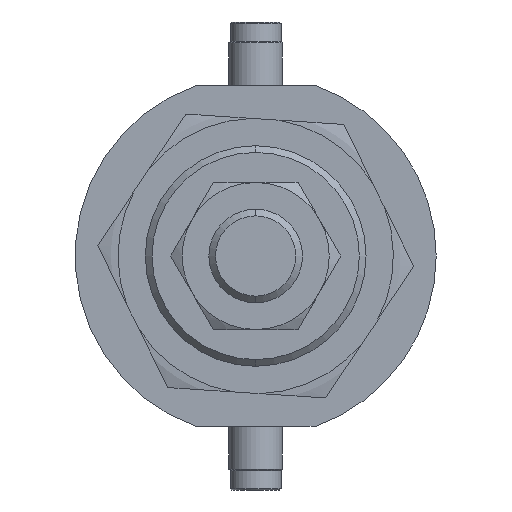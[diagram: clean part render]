
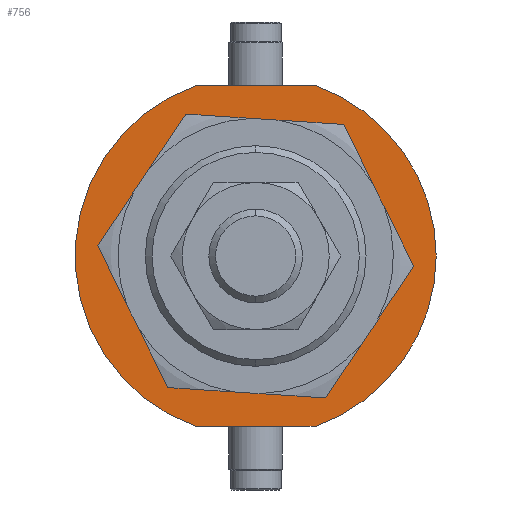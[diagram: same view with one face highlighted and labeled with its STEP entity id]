
A CAD part, left-side view. The second image highlights one B-rep face of the part: STEP entity #756.
In plain terms, the highlighted planar face has unit normal (-1, 0, 0) as drawn and (0, 1, 0) by its records, which use the part's own axes.
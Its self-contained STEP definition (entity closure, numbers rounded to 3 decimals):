
#54 = DIRECTION ( 'NONE',  ( 0., 0., 1. ) ) ;
#174 = DIRECTION ( 'NONE',  ( 0., 1., 0. ) ) ;
#231 = EDGE_CURVE ( 'NONE', #3758, #1250, #2076, .T. ) ;
#250 = DIRECTION ( 'NONE',  ( 0., 0., 1. ) ) ;
#304 = EDGE_LOOP ( 'NONE', ( #1438, #2444, #2092, #3664, #2622 ) ) ;
#348 = AXIS2_PLACEMENT_3D ( 'NONE', #611, #3166, #250 ) ;
#359 = FACE_BOUND ( 'NONE', #660, .T. ) ;
#428 = CARTESIAN_POINT ( 'NONE',  ( 0., 4.5, 0. ) ) ;
#454 = CARTESIAN_POINT ( 'NONE',  ( -25.5, 4.5, 8.874 ) ) ;
#493 = CARTESIAN_POINT ( 'NONE',  ( 0., 4.5, 16.5 ) ) ;
#578 = VERTEX_POINT ( 'NONE', #454 ) ;
#593 = EDGE_CURVE ( 'NONE', #1250, #578, #823, .T. ) ;
#609 = VECTOR ( 'NONE', #2360, 1000. ) ;
#611 = CARTESIAN_POINT ( 'NONE',  ( 0., 4.5, 0. ) ) ;
#660 = EDGE_LOOP ( 'NONE', ( #1160, #932 ) ) ;
#676 = VERTEX_POINT ( 'NONE', #1110 ) ;
#756 = ADVANCED_FACE ( 'NONE', ( #359, #3654 ), #1527, .T. ) ;
#823 = LINE ( 'NONE', #3923, #1920 ) ;
#932 = ORIENTED_EDGE ( 'NONE', *, *, #2756, .F. ) ;
#950 = AXIS2_PLACEMENT_3D ( 'NONE', #1619, #1988, #54 ) ;
#959 = CIRCLE ( 'NONE', #950, 27. ) ;
#1110 = CARTESIAN_POINT ( 'NONE',  ( 0., 4.5, 27. ) ) ;
#1160 = ORIENTED_EDGE ( 'NONE', *, *, #3045, .F. ) ;
#1169 = LINE ( 'NONE', #2980, #609 ) ;
#1237 = VERTEX_POINT ( 'NONE', #493 ) ;
#1250 = VERTEX_POINT ( 'NONE', #3839 ) ;
#1438 = ORIENTED_EDGE ( 'NONE', *, *, #231, .T. ) ;
#1487 = DIRECTION ( 'NONE',  ( 0., 1., 0. ) ) ;
#1527 = PLANE ( 'NONE',  #2337 ) ;
#1607 = VERTEX_POINT ( 'NONE', #2870 ) ;
#1619 = CARTESIAN_POINT ( 'NONE',  ( 0., 4.5, 0. ) ) ;
#1872 = CARTESIAN_POINT ( 'NONE',  ( 25.5, 4.5, -8.874 ) ) ;
#1920 = VECTOR ( 'NONE', #2722, 1000. ) ;
#1988 = DIRECTION ( 'NONE',  ( 0., 1., 0. ) ) ;
#2076 = CIRCLE ( 'NONE', #348, 27. ) ;
#2092 = ORIENTED_EDGE ( 'NONE', *, *, #3881, .T. ) ;
#2129 = CARTESIAN_POINT ( 'NONE',  ( 0., 4.5, 0. ) ) ;
#2152 = CIRCLE ( 'NONE', #3126, 27. ) ;
#2208 = DIRECTION ( 'NONE',  ( 0., 0., 1. ) ) ;
#2284 = AXIS2_PLACEMENT_3D ( 'NONE', #3781, #3462, #3108 ) ;
#2337 = AXIS2_PLACEMENT_3D ( 'NONE', #2129, #2791, #2767 ) ;
#2345 = CARTESIAN_POINT ( 'NONE',  ( 0., 4.5, 0. ) ) ;
#2347 = CARTESIAN_POINT ( 'NONE',  ( 0., 4.5, -16.5 ) ) ;
#2360 = DIRECTION ( 'NONE',  ( 0., 0., -1. ) ) ;
#2444 = ORIENTED_EDGE ( 'NONE', *, *, #593, .T. ) ;
#2590 = EDGE_CURVE ( 'NONE', #1607, #3758, #1169, .T. ) ;
#2622 = ORIENTED_EDGE ( 'NONE', *, *, #2590, .T. ) ;
#2673 = AXIS2_PLACEMENT_3D ( 'NONE', #2345, #174, #2208 ) ;
#2722 = DIRECTION ( 'NONE',  ( 0., 0., 1. ) ) ;
#2756 = EDGE_CURVE ( 'NONE', #2809, #1237, #3388, .T. ) ;
#2767 = DIRECTION ( 'NONE',  ( 0., 0., 1. ) ) ;
#2791 = DIRECTION ( 'NONE',  ( 0., 1., 0. ) ) ;
#2795 = CIRCLE ( 'NONE', #2284, 16.5 ) ;
#2809 = VERTEX_POINT ( 'NONE', #2347 ) ;
#2870 = CARTESIAN_POINT ( 'NONE',  ( 25.5, 4.5, 8.874 ) ) ;
#2893 = EDGE_CURVE ( 'NONE', #676, #1607, #2152, .T. ) ;
#2980 = CARTESIAN_POINT ( 'NONE',  ( 25.5, 4.5, -8.874 ) ) ;
#3045 = EDGE_CURVE ( 'NONE', #1237, #2809, #2795, .T. ) ;
#3108 = DIRECTION ( 'NONE',  ( 0., 0., 1. ) ) ;
#3126 = AXIS2_PLACEMENT_3D ( 'NONE', #428, #1487, #4021 ) ;
#3166 = DIRECTION ( 'NONE',  ( 0., 1., 0. ) ) ;
#3388 = CIRCLE ( 'NONE', #2673, 16.5 ) ;
#3462 = DIRECTION ( 'NONE',  ( 0., 1., 0. ) ) ;
#3654 = FACE_OUTER_BOUND ( 'NONE', #304, .T. ) ;
#3664 = ORIENTED_EDGE ( 'NONE', *, *, #2893, .T. ) ;
#3758 = VERTEX_POINT ( 'NONE', #1872 ) ;
#3781 = CARTESIAN_POINT ( 'NONE',  ( 0., 4.5, 0. ) ) ;
#3839 = CARTESIAN_POINT ( 'NONE',  ( -25.5, 4.5, -8.874 ) ) ;
#3881 = EDGE_CURVE ( 'NONE', #578, #676, #959, .T. ) ;
#3923 = CARTESIAN_POINT ( 'NONE',  ( -25.5, 4.5, -8.874 ) ) ;
#4021 = DIRECTION ( 'NONE',  ( 0., 0., 1. ) ) ;
